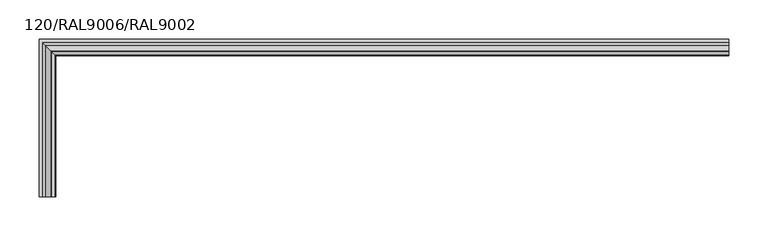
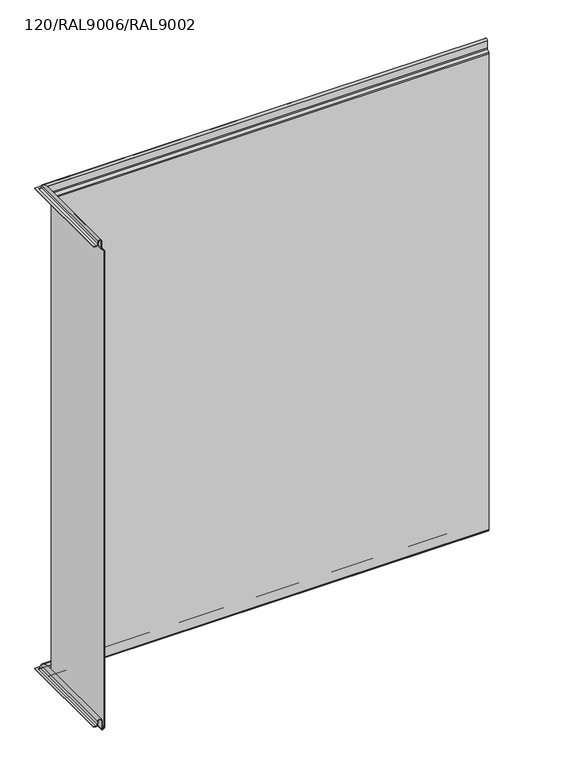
"""IFC4 building model written with IfcOpenShell, lengths in millimetres: plate geometry, TR_C_H_FTV_Corner_Tr_B : 120/RAL9006/RAL9002."""

from ifc_helpers import new_model, si_unit, frame, origin, place, context, project, spatial, polyline, circle_curve, ellipse_curve, source, transform, mapped, element, save
from ifc_brep_helpers import plane_surface, cylinder_surface, revolved_surface, advanced_brep


def plate_120_ral9006_ral9002_4569f67c(model_context):
    return source(origin(), model_context, "Body", "AdvancedBrep", [
        advanced_brep(
        [(490.0, -99.0, 1000.6000012), (490.0, -103.1130328, 1000.6000012), (490.0, -106.8060618, 1003.6988205), (490.0, -107.5493748, 1007.9143577), (490.0, -114.0, 1007.3500012), (490.0, -114.0, 992.6000012), (490.0, -114.732233, 990.8322342), (490.0, -119.1213203, 986.4431469), (490.0, -120.0, 984.3218266), (490.0, -120.0, -5.018628), (490.0, -119.1945436, -6.9631716), (490.0, -117.3288582, -8.8288571), (490.0, -114.0, -7.4499988), (490.0, -114.0, 10.1500012), (490.0, -107.1524133, 10.7490874), (490.0, -106.085588, 4.6988205), (490.0, -102.3925589, 1.6000012), (490.0, -99.0, 1.6000012), (490.0, -99.0, 2.4000012), (490.0, -102.3925589, 2.4000012), (490.0, -105.2977418, 4.837739), (490.0, -106.364567, 10.8880059), (490.0, -114.8, 10.1500012), (490.0, -114.8, -7.4499988), (490.0, -116.7631728, -8.2631716), (490.0, -118.6288582, -6.3974862), (490.0, -119.2, -5.018628), (490.0, -119.2, 984.3218266), (490.0, -118.5556349, 985.8774615), (490.0, -114.1665476, 990.2665488), (490.0, -113.2, 992.6000012), (490.0, -113.2, 1007.3500012), (490.0, -108.337221, 1007.7754392), (490.0, -107.5939081, 1003.559902), (490.0, -103.1130328, 999.8000012), (490.0, -99.0, 999.8000012), (-391.0, -99.0, 1000.6000012), (-391.0, -300.0, 1000.6000012), (-386.8869672, -300.0, 1000.6000012), (-386.8869672, -103.1130328, 1000.6000012), (-383.1939382, -106.8060618, 1003.6988205), (-382.4506252, -107.5493748, 1007.9143577), (-376.0, -114.0, 1007.3500012), (-376.0, -114.0, 992.6000012), (-375.267767, -114.732233, 990.8322342), (-370.8786797, -119.1213203, 986.4431469), (-370.0, -120.0, 984.3218266), (-370.0, -120.0, -5.018628), (-370.8054564, -119.1945436, -6.9631716), (-372.6711418, -117.3288582, -8.8288571), (-376.0, -114.0, -7.4499988), (-376.0, -114.0, 10.1500012), (-382.8475867, -107.1524133, 10.7490874), (-383.914412, -106.085588, 4.6988205), (-387.6074411, -102.3925589, 1.6000012), (-387.6074411, -300.0, 1.6000012), (-391.0, -300.0, 1.6000012), (-391.0, -99.0, 1.6000012), (-391.0, -99.0, 2.4000012), (-391.0, -300.0, 2.4000012), (-387.6074411, -300.0, 2.4000012), (-387.6074411, -102.3925589, 2.4000012), (-384.7022582, -105.2977418, 4.837739), (-383.635433, -106.364567, 10.8880059), (-375.2, -114.8, 10.1500012), (-375.2, -114.8, -7.4499988), (-373.2368272, -116.7631728, -8.2631716), (-371.3711418, -118.6288582, -6.3974862), (-370.8, -119.2, -5.018628), (-370.8, -119.2, 984.3218266), (-371.4443651, -118.5556349, 985.8774615), (-375.8334524, -114.1665476, 990.2665488), (-376.8, -113.2, 992.6000012), (-376.8, -113.2, 1007.3500012), (-381.662779, -108.337221, 1007.7754392), (-382.4060919, -107.5939081, 1003.559902), (-386.8869672, -103.1130328, 999.8000012), (-386.8869672, -300.0, 999.8000012), (-391.0, -300.0, 999.8000012), (-391.0, -99.0, 999.8000012), (-382.4060919, -300.0, 1003.559902), (-381.662779, -300.0, 1007.7754392), (-376.8, -300.0, 1007.3500012), (-376.8, -300.0, 992.6000012), (-375.8334524, -300.0, 990.2665488), (-371.4443651, -300.0, 985.8774615), (-370.8, -300.0, 984.3218266), (-370.8, -300.0, -5.018628), (-371.3711418, -300.0, -6.3974862), (-373.2368272, -300.0, -8.2631716), (-375.2, -300.0, -7.4499988), (-375.2, -300.0, 10.1500012), (-383.635433, -300.0, 10.8880059), (-384.7022582, -300.0, 4.837739), (-383.914412, -300.0, 4.6988205), (-382.8475867, -300.0, 10.7490874), (-376.0, -300.0, 10.1500012), (-376.0, -300.0, -7.4499988), (-372.6711418, -300.0, -8.8288571), (-370.8054564, -300.0, -6.9631716), (-370.0, -300.0, -5.018628), (-370.0, -300.0, 984.3218266), (-370.8786797, -300.0, 986.4431469), (-375.267767, -300.0, 990.8322342), (-376.0, -300.0, 992.6000012), (-376.0, -300.0, 1007.3500012), (-382.4506252, -300.0, 1007.9143577), (-383.1939382, -300.0, 1003.6988205)],
        [
            (0, 1),
            (1, 2, circle_curve(frame((490.0, -103.1130328, 1004.3500012), z_axis=(-1.0, 0.0, 0.0), x_axis=(0.0, -1.0, 0.0)), 3.75)),
            (2, 3),
            (3, 4, circle_curve(frame((490.0, -110.75, 1007.3500012), z_axis=(1.0, 0.0, 0.0), x_axis=(0.0, -1.0, 0.0)), 3.25)),
            (4, 5),
            (5, 6, circle_curve(frame((490.0, -116.5, 992.6000012), z_axis=(-1.0, 0.0, 0.0), x_axis=(0.0, -1.0, 0.0)), 2.5)),
            (6, 7),
            (7, 8, circle_curve(frame((490.0, -117.0, 984.3218266), z_axis=(1.0, 0.0, 0.0), x_axis=(0.0, -1.0, 0.0)), 3.0)),
            (8, 9),
            (9, 10, circle_curve(frame((490.0, -117.25, -5.018628), z_axis=(1.0, 0.0, 0.0), x_axis=(0.0, -1.0, 0.0)), 2.75)),
            (10, 11),
            (11, 12, circle_curve(frame((490.0, -115.95, -7.4499988), z_axis=(1.0, 0.0, 0.0), x_axis=(0.0, -1.0, 0.0)), 1.95)),
            (12, 13),
            (13, 14, circle_curve(frame((490.0, -110.55, 10.1500012), z_axis=(-1.0, 0.0, 0.0), x_axis=(0.0, -1.0, 0.0)), 3.45)),
            (14, 15),
            (15, 16, circle_curve(frame((490.0, -102.3925589, 5.3500012), z_axis=(1.0, 0.0, 0.0), x_axis=(0.0, -1.0, 0.0)), 3.75)),
            (16, 17),
            (17, 18),
            (18, 19),
            (19, 20, circle_curve(frame((490.0, -102.3925589, 5.3500012), z_axis=(-1.0, 0.0, 0.0), x_axis=(0.0, -1.0, 0.0)), 2.95)),
            (20, 21),
            (21, 22, circle_curve(frame((490.0, -110.55, 10.1500012), z_axis=(1.0, 0.0, 0.0), x_axis=(0.0, -1.0, 0.0)), 4.25)),
            (22, 23),
            (23, 24, circle_curve(frame((490.0, -115.95, -7.4499988), z_axis=(-1.0, 0.0, 0.0), x_axis=(0.0, -1.0, 0.0)), 1.15)),
            (24, 25),
            (25, 26, circle_curve(frame((490.0, -117.25, -5.018628), z_axis=(-1.0, 0.0, 0.0), x_axis=(0.0, -1.0, 0.0)), 1.95)),
            (26, 27),
            (27, 28, circle_curve(frame((490.0, -117.0, 984.3218266), z_axis=(-1.0, 0.0, 0.0), x_axis=(0.0, -1.0, 0.0)), 2.2)),
            (28, 29),
            (29, 30, circle_curve(frame((490.0, -116.5, 992.6000012), z_axis=(1.0, 0.0, 0.0), x_axis=(0.0, -1.0, 0.0)), 3.3)),
            (30, 31),
            (31, 32, circle_curve(frame((490.0, -110.75, 1007.3500012), z_axis=(-1.0, 0.0, 0.0), x_axis=(0.0, -1.0, 0.0)), 2.45)),
            (32, 33),
            (33, 34, circle_curve(frame((490.0, -103.1130328, 1004.3500012), z_axis=(1.0, 0.0, 0.0), x_axis=(0.0, -1.0, 0.0)), 4.55)),
            (34, 35),
            (35, 0),
            (0, 36),
            (36, 37),
            (37, 38),
            (38, 39),
            (39, 1),
            (39, 40, ellipse_curve(frame((-386.8869672, -103.1130328, 1004.3500012), z_axis=(-0.7071067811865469, -0.7071067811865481, 0.0), x_axis=(-0.7071067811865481, 0.7071067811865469, 0.0)), 5.3033009, 3.75)),
            (40, 2),
            (40, 41),
            (41, 3),
            (41, 42, ellipse_curve(frame((-379.25, -110.75, 1007.3500012), z_axis=(0.7071067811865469, 0.7071067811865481, 0.0), x_axis=(0.7071067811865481, -0.7071067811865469, 0.0)), 4.5961941, 3.25)),
            (42, 4),
            (42, 43),
            (43, 5),
            (43, 44, ellipse_curve(frame((-373.5, -116.5, 992.6000012), z_axis=(-0.7071067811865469, -0.7071067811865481, 0.0), x_axis=(-0.7071067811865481, 0.7071067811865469, 0.0)), 3.5355339, 2.5)),
            (44, 6),
            (44, 45),
            (45, 7),
            (45, 46, ellipse_curve(frame((-373.0, -117.0, 984.3218266), z_axis=(0.7071067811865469, 0.7071067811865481, 0.0), x_axis=(0.7071067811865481, -0.7071067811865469, 0.0)), 4.2426407, 3.0)),
            (46, 8),
            (46, 47),
            (47, 9),
            (47, 48, ellipse_curve(frame((-372.75, -117.25, -5.018628), z_axis=(0.7071067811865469, 0.7071067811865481, 0.0), x_axis=(0.7071067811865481, -0.7071067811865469, 0.0)), 3.8890873, 2.75)),
            (48, 10),
            (48, 49),
            (49, 11),
            (49, 50, ellipse_curve(frame((-374.05, -115.95, -7.4499988), z_axis=(0.7071067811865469, 0.7071067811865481, 0.0), x_axis=(0.7071067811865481, -0.7071067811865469, 0.0)), 2.7577164, 1.95)),
            (50, 12),
            (50, 51),
            (51, 13),
            (51, 52, ellipse_curve(frame((-379.45, -110.55, 10.1500012), z_axis=(-0.7071067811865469, -0.7071067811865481, 0.0), x_axis=(-0.7071067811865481, 0.7071067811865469, 0.0)), 4.8790368, 3.45)),
            (52, 14),
            (52, 53),
            (53, 15),
            (53, 54, ellipse_curve(frame((-387.6074411, -102.3925589, 5.3500012), z_axis=(0.7071067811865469, 0.7071067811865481, 0.0), x_axis=(0.7071067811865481, -0.7071067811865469, 0.0)), 5.3033009, 3.75)),
            (54, 16),
            (54, 55),
            (55, 56),
            (56, 57),
            (57, 17),
            (57, 58),
            (58, 18),
            (58, 59),
            (59, 60),
            (60, 61),
            (61, 19),
            (61, 62, ellipse_curve(frame((-387.6074411, -102.3925589, 5.3500012), z_axis=(-0.7071067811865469, -0.7071067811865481, 0.0), x_axis=(-0.7071067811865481, 0.7071067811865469, 0.0)), 4.17193, 2.95)),
            (62, 20),
            (62, 63),
            (63, 21),
            (63, 64, ellipse_curve(frame((-379.45, -110.55, 10.1500012), z_axis=(0.7071067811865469, 0.7071067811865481, 0.0), x_axis=(0.7071067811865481, -0.7071067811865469, 0.0)), 6.0104076, 4.25)),
            (64, 22),
            (64, 65),
            (65, 23),
            (65, 66, ellipse_curve(frame((-374.05, -115.95, -7.4499988), z_axis=(-0.7071067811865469, -0.7071067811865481, 0.0), x_axis=(-0.7071067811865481, 0.7071067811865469, 0.0)), 1.6263456, 1.15)),
            (66, 24),
            (66, 67),
            (67, 25),
            (67, 68, ellipse_curve(frame((-372.75, -117.25, -5.018628), z_axis=(-0.7071067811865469, -0.7071067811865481, 0.0), x_axis=(-0.7071067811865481, 0.7071067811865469, 0.0)), 2.7577164, 1.95)),
            (68, 26),
            (68, 69),
            (69, 27),
            (69, 70, ellipse_curve(frame((-373.0, -117.0, 984.3218266), z_axis=(-0.7071067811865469, -0.7071067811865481, 0.0), x_axis=(-0.7071067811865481, 0.7071067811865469, 0.0)), 3.1112698, 2.2)),
            (70, 28),
            (70, 71),
            (71, 29),
            (71, 72, ellipse_curve(frame((-373.5, -116.5, 992.6000012), z_axis=(0.7071067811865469, 0.7071067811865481, 0.0), x_axis=(0.7071067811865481, -0.7071067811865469, 0.0)), 4.6669048, 3.3)),
            (72, 30),
            (72, 73),
            (73, 31),
            (73, 74, ellipse_curve(frame((-379.25, -110.75, 1007.3500012), z_axis=(-0.7071067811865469, -0.7071067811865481, 0.0), x_axis=(-0.7071067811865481, 0.7071067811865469, 0.0)), 3.4648232, 2.45)),
            (74, 32),
            (74, 75),
            (75, 33),
            (75, 76, ellipse_curve(frame((-386.8869672, -103.1130328, 1004.3500012), z_axis=(0.7071067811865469, 0.7071067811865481, 0.0), x_axis=(0.7071067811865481, -0.7071067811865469, 0.0)), 6.4346717, 4.55)),
            (76, 34),
            (76, 77),
            (77, 78),
            (78, 79),
            (79, 35),
            (79, 36),
            (37, 78),
            (77, 80, circle_curve(frame((-386.8869672, -300.0, 1004.3500012), z_axis=(0.0, -1.0, 0.0), x_axis=(1.0, 0.0, 0.0)), 4.55)),
            (80, 81),
            (81, 82, circle_curve(frame((-379.25, -300.0, 1007.3500012), z_axis=(0.0, 1.0, 0.0), x_axis=(1.0, 0.0, 0.0)), 2.45)),
            (82, 83),
            (83, 84, circle_curve(frame((-373.5, -300.0, 992.6000012), z_axis=(0.0, -1.0, 0.0), x_axis=(1.0, 0.0, 0.0)), 3.3)),
            (84, 85),
            (85, 86, circle_curve(frame((-373.0, -300.0, 984.3218266), z_axis=(0.0, 1.0, 0.0), x_axis=(1.0, 0.0, 0.0)), 2.2)),
            (86, 87),
            (87, 88, circle_curve(frame((-372.75, -300.0, -5.018628), z_axis=(0.0, 1.0, 0.0), x_axis=(1.0, 0.0, 0.0)), 1.95)),
            (88, 89),
            (89, 90, circle_curve(frame((-374.05, -300.0, -7.4499988), z_axis=(0.0, 1.0, 0.0), x_axis=(1.0, 0.0, 0.0)), 1.15)),
            (90, 91),
            (91, 92, circle_curve(frame((-379.45, -300.0, 10.1500012), z_axis=(0.0, -1.0, 0.0), x_axis=(1.0, 0.0, 0.0)), 4.25)),
            (92, 93),
            (93, 60, circle_curve(frame((-387.6074411, -300.0, 5.3500012), z_axis=(0.0, 1.0, 0.0), x_axis=(1.0, 0.0, 0.0)), 2.95)),
            (59, 56),
            (55, 94, circle_curve(frame((-387.6074411, -300.0, 5.3500012), z_axis=(0.0, -1.0, 0.0), x_axis=(1.0, 0.0, 0.0)), 3.75)),
            (94, 95),
            (95, 96, circle_curve(frame((-379.45, -300.0, 10.1500012), z_axis=(0.0, 1.0, 0.0), x_axis=(1.0, 0.0, 0.0)), 3.45)),
            (96, 97),
            (97, 98, circle_curve(frame((-374.05, -300.0, -7.4499988), z_axis=(0.0, -1.0, 0.0), x_axis=(1.0, 0.0, 0.0)), 1.95)),
            (98, 99),
            (99, 100, circle_curve(frame((-372.75, -300.0, -5.018628), z_axis=(0.0, -1.0, 0.0), x_axis=(1.0, 0.0, 0.0)), 2.75)),
            (100, 101),
            (101, 102, circle_curve(frame((-373.0, -300.0, 984.3218266), z_axis=(0.0, -1.0, 0.0), x_axis=(1.0, 0.0, 0.0)), 3.0)),
            (102, 103),
            (103, 104, circle_curve(frame((-373.5, -300.0, 992.6000012), z_axis=(0.0, 1.0, 0.0), x_axis=(1.0, 0.0, 0.0)), 2.5)),
            (104, 105),
            (105, 106, circle_curve(frame((-379.25, -300.0, 1007.3500012), z_axis=(0.0, -1.0, 0.0), x_axis=(1.0, 0.0, 0.0)), 3.25)),
            (106, 107),
            (107, 38, circle_curve(frame((-386.8869672, -300.0, 1004.3500012), z_axis=(0.0, 1.0, 0.0), x_axis=(1.0, 0.0, 0.0)), 3.75)),
            (107, 40),
            (106, 41),
            (105, 42),
            (104, 43),
            (103, 44),
            (102, 45),
            (101, 46),
            (100, 47),
            (99, 48),
            (98, 49),
            (97, 50),
            (96, 51),
            (95, 52),
            (94, 53),
            (93, 62),
            (92, 63),
            (91, 64),
            (90, 65),
            (89, 66),
            (88, 67),
            (87, 68),
            (86, 69),
            (85, 70),
            (84, 71),
            (83, 72),
            (82, 73),
            (81, 74),
            (80, 75),
        ],
        [
            plane_surface(frame((490.0, 0.0, 0.0), z_axis=(1.0, 0.0, 0.0), x_axis=(0.0, 0.0, 1.0))),
            plane_surface(frame((490.0, -99.0, 1000.6000012), z_axis=(0.0, 0.0, 1.0), x_axis=(-1.0, 0.0, 0.0))),
            revolved_surface(polyline([(-390.63696722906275, -106.8630328, 1004.3500012), (490.0, -106.8630328, 1004.3500012)]), (490.0, -103.1130328, 1004.3500012), (-1.0, 0.0, 0.0)),
            plane_surface(frame((490.0, -106.8060618, 1003.6988205), z_axis=(0.0, 0.9848077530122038, 0.17364817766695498), x_axis=(-1.0, 0.0, 0.0))),
            cylinder_surface(frame((490.0, -110.75, 1007.3500012), z_axis=(1.0, 0.0, 0.0), x_axis=(0.0, -1.0, 0.0)), 3.25),
            plane_surface(frame((490.0, -114.0, 1007.3500012), z_axis=(0.0, -1.0, 0.0), x_axis=(-1.0, 0.0, 0.0))),
            revolved_surface(polyline([(-376.0, -119.0, 992.6000012), (490.0, -119.0, 992.6000012)]), (490.0, -116.5, 992.6000012), (-1.0, 0.0, 0.0)),
            plane_surface(frame((490.0, -114.732233, 990.8322342), z_axis=(0.0, -0.7071067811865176, 0.7071067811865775), x_axis=(-1.0, 0.0, 0.0))),
            cylinder_surface(frame((490.0, -117.0, 984.3218266), z_axis=(1.0, 0.0, 0.0), x_axis=(0.0, -1.0, 0.0)), 3.0),
            plane_surface(frame((490.0, -120.0, 984.3218266), z_axis=(0.0, -1.0, 0.0), x_axis=(-1.0, 0.0, 0.0))),
            cylinder_surface(frame((490.0, -117.25, -5.018628), z_axis=(1.0, 0.0, 0.0), x_axis=(0.0, -1.0, 0.0)), 2.75),
            plane_surface(frame((490.0, -119.1945436, -6.9631716), z_axis=(0.0, -0.7071067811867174, -0.7071067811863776), x_axis=(-1.0, 0.0, 0.0))),
            cylinder_surface(frame((490.0, -115.95, -7.4499988), z_axis=(1.0, 0.0, 0.0), x_axis=(0.0, -1.0, 0.0)), 1.95),
            plane_surface(frame((490.0, -114.0, -7.4499988), z_axis=(0.0, 1.0, 0.0), x_axis=(-1.0, 0.0, 0.0))),
            revolved_surface(polyline([(-382.90000000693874, -114.0, 10.1500012), (490.0, -114.0, 10.1500012)]), (490.0, -110.55, 10.1500012), (-1.0, 0.0, 0.0)),
            plane_surface(frame((490.0, -107.1524133, 10.7490874), z_axis=(0.0, -0.9848077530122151, -0.1736481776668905), x_axis=(-1.0, 0.0, 0.0))),
            cylinder_surface(frame((490.0, -102.3925589, 5.3500012), z_axis=(1.0, 0.0, 0.0), x_axis=(0.0, -1.0, 0.0)), 3.75),
            plane_surface(frame((490.0, -102.3925589, 1.6000012), z_axis=(0.0, 0.0, -1.0), x_axis=(-1.0, 0.0, 0.0))),
            plane_surface(frame((490.0, -99.0, 1.6000012), z_axis=(0.0, 1.0, 0.0), x_axis=(-1.0, 0.0, 0.0))),
            plane_surface(frame((490.0, -99.0, 2.4000012), z_axis=(0.0, 0.0, 1.0), x_axis=(-1.0, 0.0, 0.0))),
            revolved_surface(polyline([(-390.5574410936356, -105.3425589, 5.3500012), (490.0, -105.3425589, 5.3500012)]), (490.0, -102.3925589, 5.3500012), (-1.0, 0.0, 0.0)),
            plane_surface(frame((490.0, -105.2977418, 4.837739), z_axis=(0.0, 0.9848077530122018, 0.1736481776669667), x_axis=(-1.0, 0.0, 0.0))),
            cylinder_surface(frame((490.0, -110.55, 10.1500012), z_axis=(1.0, 0.0, 0.0), x_axis=(0.0, -1.0, 0.0)), 4.25),
            plane_surface(frame((490.0, -114.8, 10.1500012), z_axis=(0.0, -1.0, 0.0), x_axis=(-1.0, 0.0, 0.0))),
            revolved_surface(polyline([(-375.2000000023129, -117.10000000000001, -7.4499988), (490.0, -117.10000000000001, -7.4499988)]), (490.0, -115.95, -7.4499988), (-1.0, 0.0, 0.0)),
            plane_surface(frame((490.0, -116.7631728, -8.2631716), z_axis=(0.0, 0.7071067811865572, 0.7071067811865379), x_axis=(-1.0, 0.0, 0.0))),
            revolved_surface(polyline([(-374.6999999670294, -119.2, -5.018628), (490.0, -119.2, -5.018628)]), (490.0, -117.25, -5.018628), (-1.0, 0.0, 0.0)),
            plane_surface(frame((490.0, -119.2, -5.018628), z_axis=(0.0, 1.0, 0.0), x_axis=(-1.0, 0.0, 0.0))),
            revolved_surface(polyline([(-375.19999997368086, -119.2, 984.3218266), (490.0, -119.2, 984.3218266)]), (490.0, -117.0, 984.3218266), (-1.0, 0.0, 0.0)),
            plane_surface(frame((490.0, -118.5556349, 985.8774615), z_axis=(0.0, 0.7071067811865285, -0.7071067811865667), x_axis=(-1.0, 0.0, 0.0))),
            cylinder_surface(frame((490.0, -116.5, 992.6000012), z_axis=(1.0, 0.0, 0.0), x_axis=(0.0, -1.0, 0.0)), 3.3),
            plane_surface(frame((490.0, -113.2, 992.6000012), z_axis=(0.0, 1.0, 0.0), x_axis=(-1.0, 0.0, 0.0))),
            revolved_surface(polyline([(-381.69999998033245, -113.2, 1007.3500012), (490.0, -113.2, 1007.3500012)]), (490.0, -110.75, 1007.3500012), (-1.0, 0.0, 0.0)),
            plane_surface(frame((490.0, -108.337221, 1007.7754392), z_axis=(0.0, -0.9848077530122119, -0.173648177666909), x_axis=(-1.0, 0.0, 0.0))),
            cylinder_surface(frame((490.0, -103.1130328, 1004.3500012), z_axis=(1.0, 0.0, 0.0), x_axis=(0.0, -1.0, 0.0)), 4.55),
            plane_surface(frame((490.0, -103.1130328, 999.8000012), z_axis=(0.0, 0.0, -1.0), x_axis=(-1.0, 0.0, 0.0))),
            plane_surface(frame((490.0, -99.0, 999.8000012), z_axis=(0.0, 1.0, 0.0), x_axis=(-1.0, 0.0, 0.0))),
            plane_surface(frame((-490.0, -300.0, 0.0), z_axis=(0.0, -1.0, 0.0), x_axis=(0.0, 0.0, 1.0))),
            revolved_surface(polyline([(-383.1369672, -300.0, 1004.3500012), (-383.1369672, -99.36303277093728, 1004.3500012)]), (-386.8869672, 0.0, 1004.3500012), (0.0, -1.0, 0.0)),
            plane_surface(frame((-383.1939382, -106.8060618, 1003.6988205), z_axis=(-0.9848077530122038, 0.0, 0.17364817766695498), x_axis=(0.0, -1.0, 0.0))),
            cylinder_surface(frame((-379.25, 0.0, 1007.3500012), z_axis=(0.0, 1.0, 0.0), x_axis=(1.0, 0.0, 0.0)), 3.25),
            plane_surface(frame((-376.0, -114.0, 1007.3500012), z_axis=(1.0, 0.0, 0.0), x_axis=(0.0, -1.0, 0.0))),
            revolved_surface(polyline([(-371.0, -300.0, 992.6000012), (-371.0, -114.0, 992.6000012)]), (-373.5, 0.0, 992.6000012), (0.0, -1.0, 0.0)),
            plane_surface(frame((-375.267767, -114.732233, 990.8322342), z_axis=(0.7071067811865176, 0.0, 0.7071067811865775), x_axis=(0.0, -1.0, 0.0))),
            cylinder_surface(frame((-373.0, 0.0, 984.3218266), z_axis=(0.0, 1.0, 0.0), x_axis=(1.0, 0.0, 0.0)), 3.0),
            plane_surface(frame((-370.0, -120.0, 984.3218266), z_axis=(1.0, 0.0, 0.0), x_axis=(0.0, -1.0, 0.0))),
            cylinder_surface(frame((-372.75, 0.0, -5.018628), z_axis=(0.0, 1.0, 0.0), x_axis=(1.0, 0.0, 0.0)), 2.75),
            plane_surface(frame((-370.8054564, -119.1945436, -6.9631716), z_axis=(0.7071067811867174, 0.0, -0.7071067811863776), x_axis=(0.0, -1.0, 0.0))),
            cylinder_surface(frame((-374.05, 0.0, -7.4499988), z_axis=(0.0, 1.0, 0.0), x_axis=(1.0, 0.0, 0.0)), 1.95),
            plane_surface(frame((-376.0, -114.0, -7.4499988), z_axis=(-1.0, 0.0, 0.0), x_axis=(0.0, -1.0, 0.0))),
            revolved_surface(polyline([(-376.0, -300.0, 10.1500012), (-376.0, -107.09999999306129, 10.1500012)]), (-379.45, 0.0, 10.1500012), (0.0, -1.0, 0.0)),
            plane_surface(frame((-382.8475867, -107.1524133, 10.7490874), z_axis=(0.9848077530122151, 0.0, -0.1736481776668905), x_axis=(0.0, -1.0, 0.0))),
            cylinder_surface(frame((-387.6074411, 0.0, 5.3500012), z_axis=(0.0, 1.0, 0.0), x_axis=(1.0, 0.0, 0.0)), 3.75),
            plane_surface(frame((-391.0, -99.0, 1.6000012), z_axis=(-1.0, 0.0, 0.0), x_axis=(0.0, -1.0, 0.0))),
            revolved_surface(polyline([(-384.6574411, -300.0, 5.3500012), (-384.6574411, -99.44255890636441, 5.3500012)]), (-387.6074411, 0.0, 5.3500012), (0.0, -1.0, 0.0)),
            plane_surface(frame((-384.7022582, -105.2977418, 4.837739), z_axis=(-0.9848077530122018, 0.0, 0.1736481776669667), x_axis=(0.0, -1.0, 0.0))),
            cylinder_surface(frame((-379.45, 0.0, 10.1500012), z_axis=(0.0, 1.0, 0.0), x_axis=(1.0, 0.0, 0.0)), 4.25),
            plane_surface(frame((-375.2, -114.8, 10.1500012), z_axis=(1.0, 0.0, 0.0), x_axis=(0.0, -1.0, 0.0))),
            revolved_surface(polyline([(-372.90000000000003, -300.0, -7.4499988), (-372.90000000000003, -114.7999999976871, -7.4499988)]), (-374.05, 0.0, -7.4499988), (0.0, -1.0, 0.0)),
            plane_surface(frame((-373.2368272, -116.7631728, -8.2631716), z_axis=(-0.7071067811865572, 0.0, 0.7071067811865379), x_axis=(0.0, -1.0, 0.0))),
            revolved_surface(polyline([(-370.8, -300.0, -5.018628), (-370.8, -115.30000003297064, -5.018628)]), (-372.75, 0.0, -5.018628), (0.0, -1.0, 0.0)),
            plane_surface(frame((-370.8, -119.2, -5.018628), z_axis=(-1.0, 0.0, 0.0), x_axis=(0.0, -1.0, 0.0))),
            revolved_surface(polyline([(-370.8, -300.0, 984.3218266), (-370.8, -114.80000002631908, 984.3218266)]), (-373.0, 0.0, 984.3218266), (0.0, -1.0, 0.0)),
            plane_surface(frame((-371.4443651, -118.5556349, 985.8774615), z_axis=(-0.7071067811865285, 0.0, -0.7071067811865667), x_axis=(0.0, -1.0, 0.0))),
            cylinder_surface(frame((-373.5, 0.0, 992.6000012), z_axis=(0.0, 1.0, 0.0), x_axis=(1.0, 0.0, 0.0)), 3.3),
            plane_surface(frame((-376.8, -113.2, 992.6000012), z_axis=(-1.0, 0.0, 0.0), x_axis=(0.0, -1.0, 0.0))),
            revolved_surface(polyline([(-376.8, -300.0, 1007.3500012), (-376.8, -108.30000001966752, 1007.3500012)]), (-379.25, 0.0, 1007.3500012), (0.0, -1.0, 0.0)),
            plane_surface(frame((-381.662779, -108.337221, 1007.7754392), z_axis=(0.9848077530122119, 0.0, -0.173648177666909), x_axis=(0.0, -1.0, 0.0))),
            cylinder_surface(frame((-386.8869672, 0.0, 1004.3500012), z_axis=(0.0, 1.0, 0.0), x_axis=(1.0, 0.0, 0.0)), 4.55),
            plane_surface(frame((-391.0, -99.0, 999.8000012), z_axis=(-1.0, 0.0, 0.0), x_axis=(0.0, -1.0, 0.0))),
        ],
        [
            (0, [[1, 2, 3, 4, 5, 6, 7, 8, 9, 10, 11, 12, 13, 14, 15, 16, 17, 18, 19, 20, 21, 22, 23, 24, 25, 26, 27, 28, 29, 30, 31, 32, 33, 34, 35, 36]]),
            (1, [[-1, 37, 38, 39, 40, 41]]),
            (2, [[-2, -41, 42, 43]]),
            (3, [[-3, -43, 44, 45]]),
            (4, [[-4, -45, 46, 47]]),
            (5, [[-5, -47, 48, 49]]),
            (6, [[-6, -49, 50, 51]]),
            (7, [[-7, -51, 52, 53]]),
            (8, [[-8, -53, 54, 55]]),
            (9, [[-9, -55, 56, 57]]),
            (10, [[-10, -57, 58, 59]]),
            (11, [[-11, -59, 60, 61]]),
            (12, [[-12, -61, 62, 63]]),
            (13, [[-13, -63, 64, 65]]),
            (14, [[-14, -65, 66, 67]]),
            (15, [[-15, -67, 68, 69]]),
            (16, [[-16, -69, 70, 71]]),
            (17, [[-17, -71, 72, 73, 74, 75]]),
            (18, [[-18, -75, 76, 77]]),
            (19, [[-19, -77, 78, 79, 80, 81]]),
            (20, [[-20, -81, 82, 83]]),
            (21, [[-21, -83, 84, 85]]),
            (22, [[-22, -85, 86, 87]]),
            (23, [[-23, -87, 88, 89]]),
            (24, [[-24, -89, 90, 91]]),
            (25, [[-25, -91, 92, 93]]),
            (26, [[-26, -93, 94, 95]]),
            (27, [[-27, -95, 96, 97]]),
            (28, [[-28, -97, 98, 99]]),
            (29, [[-29, -99, 100, 101]]),
            (30, [[-30, -101, 102, 103]]),
            (31, [[-31, -103, 104, 105]]),
            (32, [[-32, -105, 106, 107]]),
            (33, [[-33, -107, 108, 109]]),
            (34, [[-34, -109, 110, 111]]),
            (35, [[-35, -111, 112, 113, 114, 115]]),
            (36, [[-36, -115, 116, -37]]),
            (37, [[117, -113, 118, 119, 120, 121, 122, 123, 124, 125, 126, 127, 128, 129, 130, 131, 132, -79, 133, -73, 134, 135, 136, 137, 138, 139, 140, 141, 142, 143, 144, 145, 146, 147, 148, -39]]),
            (38, [[-42, -40, -148, 149]]),
            (39, [[-44, -149, -147, 150]]),
            (40, [[-46, -150, -146, 151]]),
            (41, [[-48, -151, -145, 152]]),
            (42, [[-50, -152, -144, 153]]),
            (43, [[-52, -153, -143, 154]]),
            (44, [[-54, -154, -142, 155]]),
            (45, [[-56, -155, -141, 156]]),
            (46, [[-58, -156, -140, 157]]),
            (47, [[-60, -157, -139, 158]]),
            (48, [[-62, -158, -138, 159]]),
            (49, [[-64, -159, -137, 160]]),
            (50, [[-66, -160, -136, 161]]),
            (51, [[-68, -161, -135, 162]]),
            (52, [[-70, -162, -134, -72]]),
            (53, [[-76, -74, -133, -78]]),
            (54, [[-82, -80, -132, 163]]),
            (55, [[-84, -163, -131, 164]]),
            (56, [[-86, -164, -130, 165]]),
            (57, [[-88, -165, -129, 166]]),
            (58, [[-90, -166, -128, 167]]),
            (59, [[-92, -167, -127, 168]]),
            (60, [[-94, -168, -126, 169]]),
            (61, [[-96, -169, -125, 170]]),
            (62, [[-98, -170, -124, 171]]),
            (63, [[-100, -171, -123, 172]]),
            (64, [[-102, -172, -122, 173]]),
            (65, [[-104, -173, -121, 174]]),
            (66, [[-106, -174, -120, 175]]),
            (67, [[-108, -175, -119, 176]]),
            (68, [[-110, -176, -118, -112]]),
            (69, [[-116, -114, -117, -38]]),
        ],
    ),
    ])


if __name__ == "__main__":
    model = new_model("IFC4")
    model_context = context("Model", 3, world=origin())
    ifc_project = project(units=[si_unit("LENGTHUNIT", "METRE", prefix="MILLI")], contexts=[model_context])
    site = spatial("IfcSite", under=ifc_project)
    building = spatial("IfcBuilding", under=site)
    placement = place(None, origin())
    plate_120_ral9006_ral9002_shape = plate_120_ral9006_ral9002_4569f67c(model_context)
    element("IfcPlate", 1, ObjectType="TR_C_H_FTV_Corner_Tr_B : 120/RAL9006/RAL9002", at=placement, inside=building, context=model_context, shape_type="MappedRepresentation", body=[
        mapped(plate_120_ral9006_ral9002_shape, transform((0.0, 0.0, 0.0), x_axis=(1.0, 0.0, 0.0), y_axis=(0.0, 1.0, 0.0), z_axis=(0.0, 0.0, 1.0))),
    ])
    save(model, "model.ifc")
